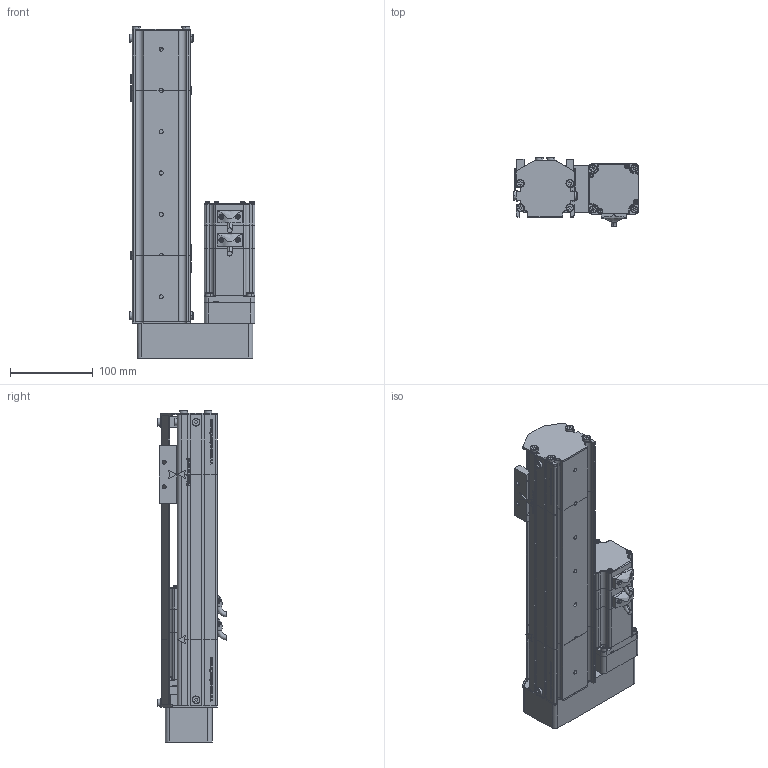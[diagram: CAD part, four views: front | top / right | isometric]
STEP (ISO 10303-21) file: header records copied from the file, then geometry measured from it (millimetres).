
FILE_DESCRIPTION (( 'STEP AP214' ), '1' );
FILE_NAME ('S07 TS BR S200.STEP', '2010-06-29T11:06:57', ( 'Conseil Régional Haute-Normandie' ), ( 'Conseil Régional Haute-Normandie' ), 'SwSTEP 2.0', 'SolidWorks 2010', '' );
FILE_SCHEMA (( 'AUTOMOTIVE_DESIGN' ));
Length unit declared in the file: millimetre
Products named in the file (35): S07 BR(124)_Default; T皻e d''axe Haut 2_Default; S07 tail (78)_Default; S07 TS BR S200; corp couvert coupé_Default; Conecteur 60BLDC_Default; Axe 60BLDC_Default; P4_Default; Course 200_Default; Vis M5 L16-2_Default; VisM3_Default; Conecteur2 60BLDC_Default; arbre + rail Course 200 ; Corp S07 course 200_Default; couvercle S07 course 200 ; vis M5 L12_Default; corp moteur BR(124)_Default; plaque de bout_Default; T皻e d''axe bas_Default; Arbre+rail tail78; guide; rail S07 moteur; Plaque racord_Default; couvercle S07 (78); plaque de bout BR_Default; P2 90A_Default; arbre S07 moteur; Chariot; vis M5 L5_Default; GMB 60 90 310_Default; P1_Default; P3 90A_Default; vis M5 L16_Default; chariot_Default; couvercle moteur S07 BR(124)
Assembly tree (61 placements, depth 4):
  S07 TS BR S200
    S07 BR(124)_Default
      Vis M5 L16-2_Default  x4
      vis M5 L5_Default  x2
      vis M5 L12_Default  x2
      Plaque racord_Default
      GMB 60 90 310_Default
        VisM3_Default  x12
        Axe 60BLDC_Default
        P3 90A_Default
        P4_Default
        Conecteur2 60BLDC_Default
        P1_Default
        Conecteur 60BLDC_Default
        P2 90A_Default
      arbre S07 moteur
      corp moteur BR(124)_Default
      rail S07 moteur
      couvercle moteur S07 BR(124)
      plaque de bout BR_Default
    Course 200_Default
      Corp S07 course 200_Default
      arbre + rail Course 200 
      couvercle S07 course 200 
    chariot_Default
      vis M5 L12_Default  x2
      Chariot
      guide
    S07 tail (78)_Default
      vis M5 L12_Default  x8
      couvercle S07 (78)
      corp couvert coupé_Default
      T皻e d''axe Haut 2_Default
      Arbre+rail tail78
      vis M5 L16_Default  x2
      plaque de bout_Default
      T皻e d''axe bas_Default
Bounding box: 152.2 x 83.7 x 402 mm (x, y, z)
Volume: 1413269.4 mm3; surface area: 434233.5 mm2
Topology: 82 solids, 82 shells, 3332 faces, 8412 edges, 5463 vertices
Faces by surface type: plane 1893, bspline 677, cylinder 577, torus 96, cone 89
Entity records: 157676 total; most frequent: CARTESIAN_POINT 73487, ORIENTED_EDGE 14080, DIRECTION 10791, EDGE_CURVE 7040, VERTEX_POINT 4653, LINE 4641, VECTOR 4641, AXIS2_PLACEMENT_3D 3075
